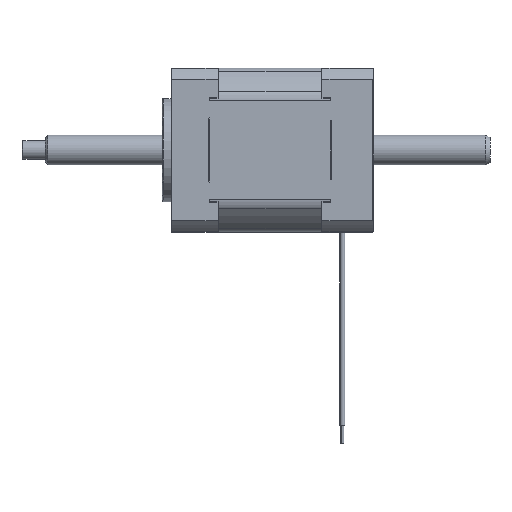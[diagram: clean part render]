
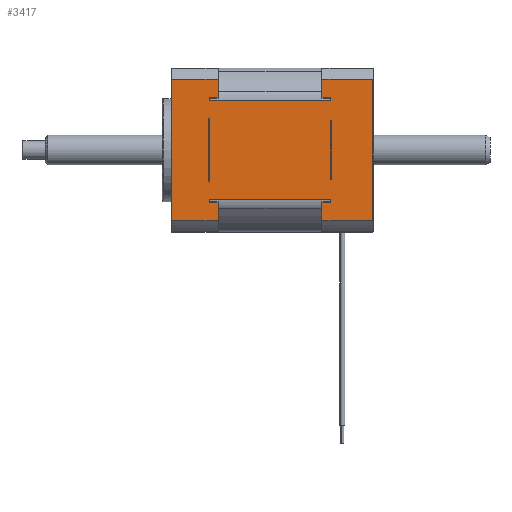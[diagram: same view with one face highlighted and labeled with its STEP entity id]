
A CAD part, top view. The second image highlights one B-rep face of the part: STEP entity #3417.
In plain terms, the highlighted planar face has unit normal (0, 0, 1).
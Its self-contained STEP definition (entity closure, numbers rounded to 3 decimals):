
#193=CARTESIAN_POINT('',(34.,-10.541,17.5));
#194=VERTEX_POINT('',#193);
#202=CARTESIAN_POINT('',(8.,-10.541,17.5));
#203=VERTEX_POINT('',#202);
#204=CARTESIAN_POINT('',(34.,-10.541,17.5));
#205=DIRECTION('',(-1.,0.,0.));
#206=VECTOR('',#205,26.);
#207=LINE('',#204,#206);
#208=EDGE_CURVE('',#194,#203,#207,.T.);
#233=CARTESIAN_POINT('',(34.,10.541,17.5));
#234=VERTEX_POINT('',#233);
#302=CARTESIAN_POINT('',(8.,10.541,17.5));
#303=VERTEX_POINT('',#302);
#311=CARTESIAN_POINT('',(8.,10.541,17.5));
#312=DIRECTION('',(1.,0.,0.));
#313=VECTOR('',#312,26.);
#314=LINE('',#311,#313);
#315=EDGE_CURVE('',#303,#234,#314,.T.);
#2874=CARTESIAN_POINT('',(9.9,-11.098,17.5));
#2875=VERTEX_POINT('',#2874);
#2884=CARTESIAN_POINT('',(9.9,-15.078,17.5));
#2885=VERTEX_POINT('',#2884);
#2886=CARTESIAN_POINT('',(9.9,-11.098,17.5));
#2887=DIRECTION('',(0.,-1.,0.));
#2888=VECTOR('',#2887,3.98);
#2889=LINE('',#2886,#2888);
#2890=EDGE_CURVE('',#2875,#2885,#2889,.T.);
#3209=CARTESIAN_POINT('',(20.55,0.,17.5));
#3210=DIRECTION('',(0.,-1.,0.));
#3211=DIRECTION('',(0.,0.,1.));
#3212=AXIS2_PLACEMENT_3D('',#3209,#3211,#3210);
#3213=PLANE('',#3212);
#3214=CARTESIAN_POINT('',(34.,-11.098,17.5));
#3215=VERTEX_POINT('',#3214);
#3216=CARTESIAN_POINT('',(34.,-10.541,17.5));
#3217=DIRECTION('',(0.,-1.,0.));
#3218=VECTOR('',#3217,0.557);
#3219=LINE('',#3216,#3218);
#3220=EDGE_CURVE('',#194,#3215,#3219,.T.);
#3221=ORIENTED_EDGE('E316',*,*,#3220,.T.);
#3222=CARTESIAN_POINT('',(32.1,-11.098,17.5));
#3223=VERTEX_POINT('',#3222);
#3224=CARTESIAN_POINT('',(34.,-11.098,17.5));
#3225=DIRECTION('',(-1.,0.,0.));
#3226=VECTOR('',#3225,1.9);
#3227=LINE('',#3224,#3226);
#3228=EDGE_CURVE('',#3215,#3223,#3227,.T.);
#3229=ORIENTED_EDGE('E317',*,*,#3228,.T.);
#3230=CARTESIAN_POINT('',(32.1,-15.078,17.5));
#3231=VERTEX_POINT('',#3230);
#3232=CARTESIAN_POINT('',(32.1,-11.098,17.5));
#3233=DIRECTION('',(0.,-1.,0.));
#3234=VECTOR('',#3233,3.98);
#3235=LINE('',#3232,#3234);
#3236=EDGE_CURVE('',#3223,#3231,#3235,.T.);
#3237=ORIENTED_EDGE('E318',*,*,#3236,.T.);
#3238=CARTESIAN_POINT('',(42.8,-15.078,17.5));
#3239=VERTEX_POINT('',#3238);
#3240=CARTESIAN_POINT('',(32.1,-15.078,17.5));
#3241=DIRECTION('',(1.,0.,0.));
#3242=VECTOR('',#3241,10.7);
#3243=LINE('',#3240,#3242);
#3244=EDGE_CURVE('',#3231,#3239,#3243,.T.);
#3245=ORIENTED_EDGE('E319',*,*,#3244,.T.);
#3246=CARTESIAN_POINT('',(42.8,15.078,17.5));
#3247=VERTEX_POINT('',#3246);
#3248=CARTESIAN_POINT('',(42.8,-15.078,17.5));
#3249=DIRECTION('',(0.,1.,0.));
#3250=VECTOR('',#3249,30.157);
#3251=LINE('',#3248,#3250);
#3252=EDGE_CURVE('',#3239,#3247,#3251,.T.);
#3253=ORIENTED_EDGE('E320',*,*,#3252,.T.);
#3254=CARTESIAN_POINT('',(32.1,15.078,17.5));
#3255=VERTEX_POINT('',#3254);
#3256=CARTESIAN_POINT('',(42.8,15.078,17.5));
#3257=DIRECTION('',(-1.,0.,0.));
#3258=VECTOR('',#3257,10.7);
#3259=LINE('',#3256,#3258);
#3260=EDGE_CURVE('',#3247,#3255,#3259,.T.);
#3261=ORIENTED_EDGE('E321',*,*,#3260,.T.);
#3262=CARTESIAN_POINT('',(32.1,11.098,17.5));
#3263=VERTEX_POINT('',#3262);
#3264=CARTESIAN_POINT('',(32.1,15.078,17.5));
#3265=DIRECTION('',(0.,-1.,0.));
#3266=VECTOR('',#3265,3.98);
#3267=LINE('',#3264,#3266);
#3268=EDGE_CURVE('',#3255,#3263,#3267,.T.);
#3269=ORIENTED_EDGE('E322',*,*,#3268,.T.);
#3270=CARTESIAN_POINT('',(34.,11.098,17.5));
#3271=VERTEX_POINT('',#3270);
#3272=CARTESIAN_POINT('',(32.1,11.098,17.5));
#3273=DIRECTION('',(1.,0.,0.));
#3274=VECTOR('',#3273,1.9);
#3275=LINE('',#3272,#3274);
#3276=EDGE_CURVE('',#3263,#3271,#3275,.T.);
#3277=ORIENTED_EDGE('E323',*,*,#3276,.T.);
#3278=CARTESIAN_POINT('',(34.,11.098,17.5));
#3279=DIRECTION('',(0.,-1.,0.));
#3280=VECTOR('',#3279,0.557);
#3281=LINE('',#3278,#3280);
#3282=EDGE_CURVE('',#3271,#234,#3281,.T.);
#3283=ORIENTED_EDGE('E324',*,*,#3282,.T.);
#3284=ORIENTED_EDGE('E324',*,*,#315,.F.);
#3285=CARTESIAN_POINT('',(8.,11.098,17.5));
#3286=VERTEX_POINT('',#3285);
#3287=CARTESIAN_POINT('',(8.,10.541,17.5));
#3288=DIRECTION('',(0.,1.,0.));
#3289=VECTOR('',#3288,0.557);
#3290=LINE('',#3287,#3289);
#3291=EDGE_CURVE('',#303,#3286,#3290,.T.);
#3292=ORIENTED_EDGE('E325',*,*,#3291,.T.);
#3293=CARTESIAN_POINT('',(9.9,11.098,17.5));
#3294=VERTEX_POINT('',#3293);
#3295=CARTESIAN_POINT('',(8.,11.098,17.5));
#3296=DIRECTION('',(1.,0.,0.));
#3297=VECTOR('',#3296,1.9);
#3298=LINE('',#3295,#3297);
#3299=EDGE_CURVE('',#3286,#3294,#3298,.T.);
#3300=ORIENTED_EDGE('E326',*,*,#3299,.T.);
#3301=CARTESIAN_POINT('',(9.9,15.078,17.5));
#3302=VERTEX_POINT('',#3301);
#3303=CARTESIAN_POINT('',(9.9,11.098,17.5));
#3304=DIRECTION('',(0.,1.,0.));
#3305=VECTOR('',#3304,3.98);
#3306=LINE('',#3303,#3305);
#3307=EDGE_CURVE('',#3294,#3302,#3306,.T.);
#3308=ORIENTED_EDGE('E327',*,*,#3307,.T.);
#3309=CARTESIAN_POINT('',(0.,15.078,17.5));
#3310=VERTEX_POINT('',#3309);
#3311=CARTESIAN_POINT('',(9.9,15.078,17.5));
#3312=DIRECTION('',(-1.,0.,0.));
#3313=VECTOR('',#3312,9.9);
#3314=LINE('',#3311,#3313);
#3315=EDGE_CURVE('',#3302,#3310,#3314,.T.);
#3316=ORIENTED_EDGE('E328',*,*,#3315,.T.);
#3317=CARTESIAN_POINT('',(0.,-15.078,17.5));
#3318=VERTEX_POINT('',#3317);
#3319=CARTESIAN_POINT('',(0.,15.078,17.5));
#3320=DIRECTION('',(0.,-1.,0.));
#3321=VECTOR('',#3320,30.157);
#3322=LINE('',#3319,#3321);
#3323=EDGE_CURVE('',#3310,#3318,#3322,.T.);
#3324=ORIENTED_EDGE('E329',*,*,#3323,.T.);
#3325=CARTESIAN_POINT('',(0.,-15.078,17.5));
#3326=DIRECTION('',(1.,0.,0.));
#3327=VECTOR('',#3326,9.9);
#3328=LINE('',#3325,#3327);
#3329=EDGE_CURVE('',#3318,#2885,#3328,.T.);
#3330=ORIENTED_EDGE('E330',*,*,#3329,.T.);
#3331=ORIENTED_EDGE('E330',*,*,#2890,.F.);
#3332=CARTESIAN_POINT('',(8.,-11.098,17.5));
#3333=VERTEX_POINT('',#3332);
#3334=CARTESIAN_POINT('',(9.9,-11.098,17.5));
#3335=DIRECTION('',(-1.,0.,0.));
#3336=VECTOR('',#3335,1.9);
#3337=LINE('',#3334,#3336);
#3338=EDGE_CURVE('',#2875,#3333,#3337,.T.);
#3339=ORIENTED_EDGE('E331',*,*,#3338,.T.);
#3340=CARTESIAN_POINT('',(8.,-11.098,17.5));
#3341=DIRECTION('',(0.,1.,0.));
#3342=VECTOR('',#3341,0.557);
#3343=LINE('',#3340,#3342);
#3344=EDGE_CURVE('',#3333,#203,#3343,.T.);
#3345=ORIENTED_EDGE('E332',*,*,#3344,.T.);
#3346=ORIENTED_EDGE('E332',*,*,#208,.F.);
#3347=EDGE_LOOP('',(#3221,#3229,#3237,#3245,#3253,#3261,#3269,#3277,#3283,#3284,#3292,#3300,#3308,#3316,#3324,#3330,#3331,#3339,#3345,#3346));
#3348=FACE_OUTER_BOUND('',#3347,.T.);
#3349=CARTESIAN_POINT('',(8.,-6.591,17.5));
#3350=VERTEX_POINT('',#3349);
#3351=CARTESIAN_POINT('',(7.8,-6.591,17.5));
#3352=VERTEX_POINT('',#3351);
#3353=CARTESIAN_POINT('',(8.,-6.591,17.5));
#3354=DIRECTION('',(-1.,0.,0.));
#3355=VECTOR('',#3354,0.2);
#3356=LINE('',#3353,#3355);
#3357=EDGE_CURVE('',#3350,#3352,#3356,.T.);
#3358=ORIENTED_EDGE('E333',*,*,#3357,.T.);
#3359=CARTESIAN_POINT('',(7.8,6.591,17.5));
#3360=VERTEX_POINT('',#3359);
#3361=CARTESIAN_POINT('',(7.8,-6.591,17.5));
#3362=DIRECTION('',(0.,1.,0.));
#3363=VECTOR('',#3362,13.182);
#3364=LINE('',#3361,#3363);
#3365=EDGE_CURVE('',#3352,#3360,#3364,.T.);
#3366=ORIENTED_EDGE('E334',*,*,#3365,.T.);
#3367=CARTESIAN_POINT('',(8.,6.591,17.5));
#3368=VERTEX_POINT('',#3367);
#3369=CARTESIAN_POINT('',(7.8,6.591,17.5));
#3370=DIRECTION('',(1.,0.,0.));
#3371=VECTOR('',#3370,0.2);
#3372=LINE('',#3369,#3371);
#3373=EDGE_CURVE('',#3360,#3368,#3372,.T.);
#3374=ORIENTED_EDGE('E335',*,*,#3373,.T.);
#3375=CARTESIAN_POINT('',(8.,6.591,17.5));
#3376=DIRECTION('',(0.,-1.,0.));
#3377=VECTOR('',#3376,13.182);
#3378=LINE('',#3375,#3377);
#3379=EDGE_CURVE('',#3368,#3350,#3378,.T.);
#3380=ORIENTED_EDGE('E336',*,*,#3379,.T.);
#3381=EDGE_LOOP('',(#3358,#3366,#3374,#3380));
#3382=FACE_BOUND('',#3381,.T.);
#3383=CARTESIAN_POINT('',(34.,-6.061,17.5));
#3384=VERTEX_POINT('',#3383);
#3385=CARTESIAN_POINT('',(34.,6.061,17.5));
#3386=VERTEX_POINT('',#3385);
#3387=CARTESIAN_POINT('',(34.,-6.061,17.5));
#3388=DIRECTION('',(0.,1.,0.));
#3389=VECTOR('',#3388,12.123);
#3390=LINE('',#3387,#3389);
#3391=EDGE_CURVE('',#3384,#3386,#3390,.T.);
#3392=ORIENTED_EDGE('E337',*,*,#3391,.T.);
#3393=CARTESIAN_POINT('',(34.2,6.061,17.5));
#3394=VERTEX_POINT('',#3393);
#3395=CARTESIAN_POINT('',(34.,6.061,17.5));
#3396=DIRECTION('',(1.,0.,0.));
#3397=VECTOR('',#3396,0.2);
#3398=LINE('',#3395,#3397);
#3399=EDGE_CURVE('',#3386,#3394,#3398,.T.);
#3400=ORIENTED_EDGE('E338',*,*,#3399,.T.);
#3401=CARTESIAN_POINT('',(34.2,-6.061,17.5));
#3402=VERTEX_POINT('',#3401);
#3403=CARTESIAN_POINT('',(34.2,6.061,17.5));
#3404=DIRECTION('',(0.,-1.,0.));
#3405=VECTOR('',#3404,12.123);
#3406=LINE('',#3403,#3405);
#3407=EDGE_CURVE('',#3394,#3402,#3406,.T.);
#3408=ORIENTED_EDGE('E339',*,*,#3407,.T.);
#3409=CARTESIAN_POINT('',(34.2,-6.061,17.5));
#3410=DIRECTION('',(-1.,0.,0.));
#3411=VECTOR('',#3410,0.2);
#3412=LINE('',#3409,#3411);
#3413=EDGE_CURVE('',#3402,#3384,#3412,.T.);
#3414=ORIENTED_EDGE('E340',*,*,#3413,.T.);
#3415=EDGE_LOOP('',(#3392,#3400,#3408,#3414));
#3416=FACE_BOUND('',#3415,.T.);
#3417=ADVANCED_FACE('F80',(#3348,#3382,#3416),#3213,.T.);
